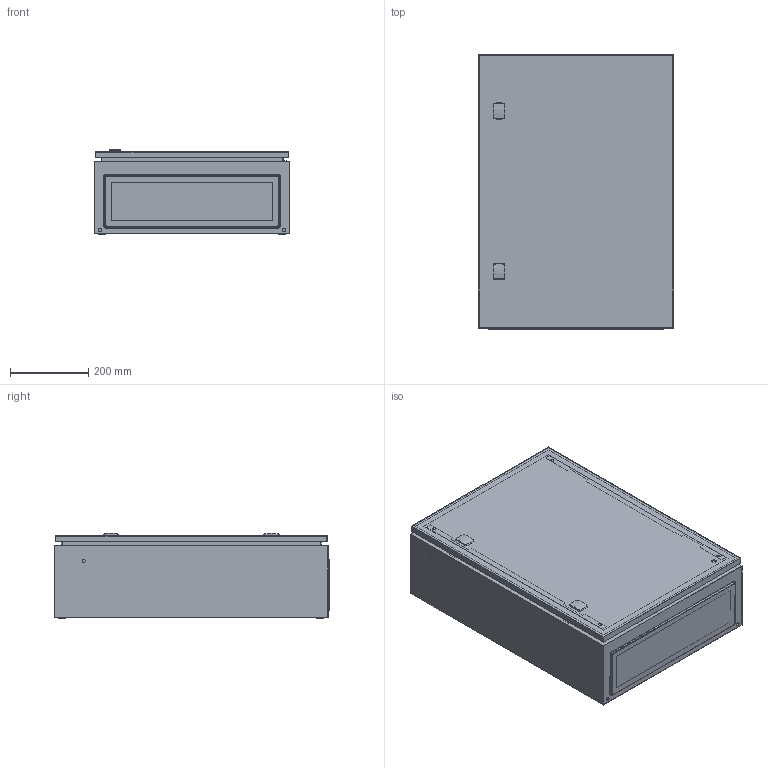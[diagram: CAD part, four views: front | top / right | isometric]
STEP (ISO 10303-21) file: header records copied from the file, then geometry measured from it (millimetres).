
FILE_DESCRIPTION( ( 'STEP AP214' ), '1' );
FILE_NAME( 'p:/temp/worker_164/temp/exporttempdir_3748_29_Y2V78/format_0/MAS0705021R5(0).stp', '2021-03-15T19:53:45', ( 'License CC BY-ND 4.0' ), ( 'CADENAS' ), ' ', 'PARTsolutions', ' ' );
FILE_SCHEMA( ( 'AUTOMOTIVE_DESIGN { 1 0 10303 214 1 1 1 1 }' ) );
Length unit declared in the file: millimetre
Products named in the file (8): MAS0705021R5(0); _MAS0705021(0); _MMSH06SS(0)_right; _ADP07050R5(0); _ALL503(0,0); _AMP07050_MPL(0); _AF03R5_GP(0); _AG03_GPG(0)
Assembly tree (9 placements, depth 2):
  MAS0705021R5(0)
    _MAS0705021(0)
    _MMSH06SS(0)_right  x2
    _ADP07050R5(0)
    _ALL503(0,0)  x2
    _AMP07050_MPL(0)
    _AF03R5_GP(0)
    _AG03_GPG(0)
Bounding box: 500 x 703.9 x 217.67 mm (x, y, z)
Volume: 2853313 mm3; surface area: 3332919.5 mm2
Topology: 9 solids, 9 shells, 525 faces, 1284 edges, 837 vertices
Faces by surface type: plane 350, cylinder 114, cone 57, torus 4
Full cylindrical faces by diameter (mm): 4.9 x2, 6 x4, 6.5 x2, 7 x4, 8 x7, 8.5 x4, 8.7 x2, 9 x2, 14 x7, 18 x2, 27 x2
Entity records: 15973 total; most frequent: CARTESIAN_POINT 2273, DIRECTION 2083, ORIENTED_EDGE 1940, EDGE_CURVE 970, AXIS2_PLACEMENT_3D 706, VERTEX_POINT 680, LINE 671, VECTOR 671
